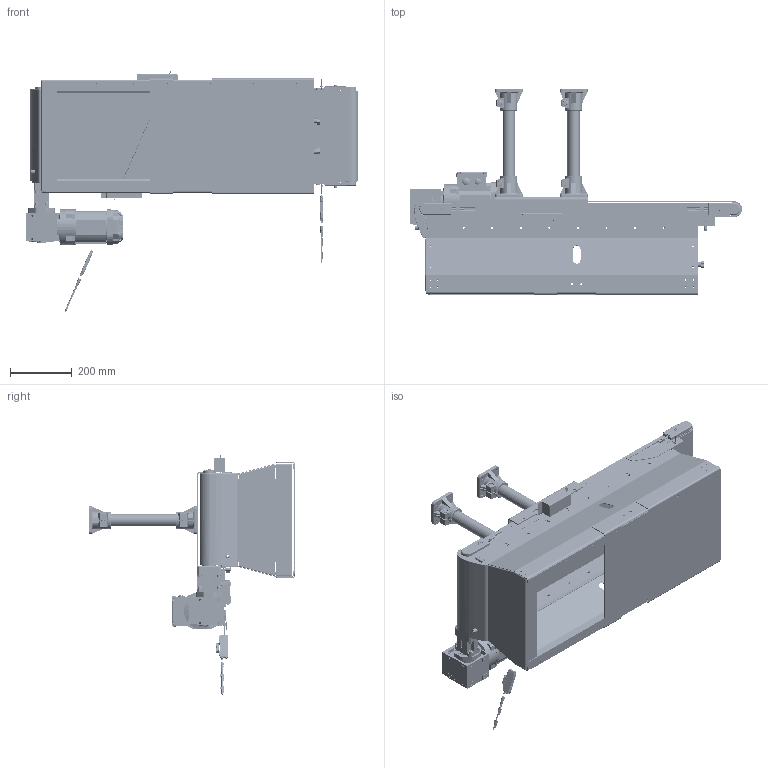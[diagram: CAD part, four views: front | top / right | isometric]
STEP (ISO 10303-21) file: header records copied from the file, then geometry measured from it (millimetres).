
FILE_DESCRIPTION (( 'STEP AP214' ), '1' );
FILE_NAME ('GM000853 Conveyor Hopper 60lt FDA Right Version.STEP', '2022-09-21T08:36:08', ( '' ), ( '' ), 'SwSTEP 2.0', 'SolidWorks 2020', '' );
FILE_SCHEMA (( 'AUTOMOTIVE_DESIGN' ));
Length unit declared in the file: millimetre
Products named in the file (149): 101235 Länge 0300^101235_Rinvio_1200095(2)_CM001187; 101538^Azionamento_1200095(2)_CM001187; PIL4040SNN220-9^Telaio_1200095(2)_CM001187; CE000512; 101322-2^Rinvio_1200095(2)_CM001187; ZKS M6X25-33^Azionamento_1200095(2)_CM001187; FAS4041-12^Telaio_1200095(2)_CM001187; ZKS NIKO M8X20-29^Azionamento_1200095(2)_CM001187; PIL4040SNN940-10^Telaio_1200095(2)_CM001187; ZKS M6X18^Azionamento_1200095(2)_CM001187; BLS M6-7^Rinvio_1200095(2)_CM001187; _Hinges GN 136-NI-45-30-C(0)_3^CM001047; PD003408; BLS M6-43^Azionamento_1200095(2)_CM001187; PIL4040SNN940^Telaio_1200095(2)_CM001187; Copia di FS-N41C^CE000511_______; ZKS NIKO M8X16-26^Azionamento_1200095(2)_CM001187; PD002349; ZKS M6X25^Azionamento_1200095(2)_CM001187; 101235^Rinvio_1200095(2)_CM001187; Intercetto sensore; Rinvio^1200095(2)_CM001187; BLS M6-46^Azionamento_1200095(2)_CM001187; ZKS NIKO M8X16^Rinvio_1200095(2)_CM001187; ZKS M6X25-44^Azionamento_1200095(2)_CM001187; NULL-18^Baugruppe1_DRN63M4_Drive_Azionamento_1200095(2)_CM001187; PD003653; PD003401; 101895^Azionamento_1200095(2)_CM001187; PD003801; TIN6008-31^Azionamento_1200095(2)_CM001187; NULL-16^Baugruppe1_DRN63M4_Drive_Azionamento_1200095(2)_CM001187; GM000853 Conveyor Hopper 60lt FDA Right Version; Baugruppe1^DRN63M4_Drive_Azionamento_1200095(2)_CM001187; 1^101895_Azionamento_1200095(2)_CM001187; eBom-prt5^101235_Rinvio_1200095(2)_CM001187; CM001187; CM000306_003; NULL-19^Baugruppe1_DRN63M4_Drive_Azionamento_1200095(2)_CM001187; 101897^Azionamento_1200095(2)_CM001187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
Assembly tree (171 placements, depth 8):
  GM000853 Conveyor Hopper 60lt FDA Right Version
    PD003398
    PD003394
    PD003399
    PD003400
    PD002343  x2
    PD002342  x2
    PD003401
    CM000884  x2
    CM000432  x4
    PD002349  x2
    PD003403
    PD003404
    PD003406
    PD003060  x2
    PD003408  x2
    PD003376  x4
    PD003419
    PD003664
    PD003665
    CM000306
      CM000306_001
      CM000306_002
      CM000306_003
    CM001047
      _Hinges GN 136-NI-45-30-C(0)_1^CM001047
      _Hinges GN 136-NI-45-30-C(0)_2^CM001047
      _Hinges GN 136-NI-45-30-C(0)_3^CM001047
    PD003410
    PD003663
    PD003402
    PD003802
    PD003801
    PD003654  x4
    PD003653  x2
    CE000511_______  x2
      Copia di FS-N41C^CE000511_______
      Copia di OP-88245^CE000511_______
    CM001187
      1200095(2)^CM001187
        Rinvio^1200095(2)_CM001187
          101235^Rinvio_1200095(2)_CM001187
            Umlenkachse^101235_Rinvio_1200095(2)_CM001187
            101235 Länge 0300^101235_Rinvio_1200095(2)_CM001187
            bearing^101235_Rinvio_1200095(2)_CM001187
            bearing-0^101235_Rinvio_1200095(2)_CM001187
            SIR014X1.0^101235_Rinvio_1200095(2)_CM001187
            eBom-prt5^101235_Rinvio_1200095(2)_CM001187
          101353^Rinvio_1200095(2)_CM001187
          101353-1^Rinvio_1200095(2)_CM001187
          101322^Rinvio_1200095(2)_CM001187
          101322-2^Rinvio_1200095(2)_CM001187
          ZKS NIKO M8X16^Rinvio_1200095(2)_CM001187
          TIN6008^Rinvio_1200095(2)_CM001187
          ZKS NIKO M8X16-3^Rinvio_1200095(2)_CM001187
          TIN6008-4^Rinvio_1200095(2)_CM001187
          ZKS NIKO M6X12^Rinvio_1200095(2)_CM001187
          BLS M6^Rinvio_1200095(2)_CM001187
          101539^Rinvio_1200095(2)_CM001187
          101539-5^Rinvio_1200095(2)_CM001187
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Bounding box: 1075.1 x 666.12 x 781.9 mm (x, y, z)
Volume: 14045784.1 mm3; surface area: 6605473.5 mm2
Topology: 204 solids, 204 shells, 9086 faces, 24145 edges, 15683 vertices
Faces by surface type: plane 4430, cylinder 3344, cone 484, bspline 419, torus 342, sphere 67
Entity records: 232505 total; most frequent: CARTESIAN_POINT 61658, ORIENTED_EDGE 33480, DIRECTION 32487, EDGE_CURVE 16740, AXIS2_PLACEMENT_3D 11398, VERTEX_POINT 10887, LINE 9691, VECTOR 9691
